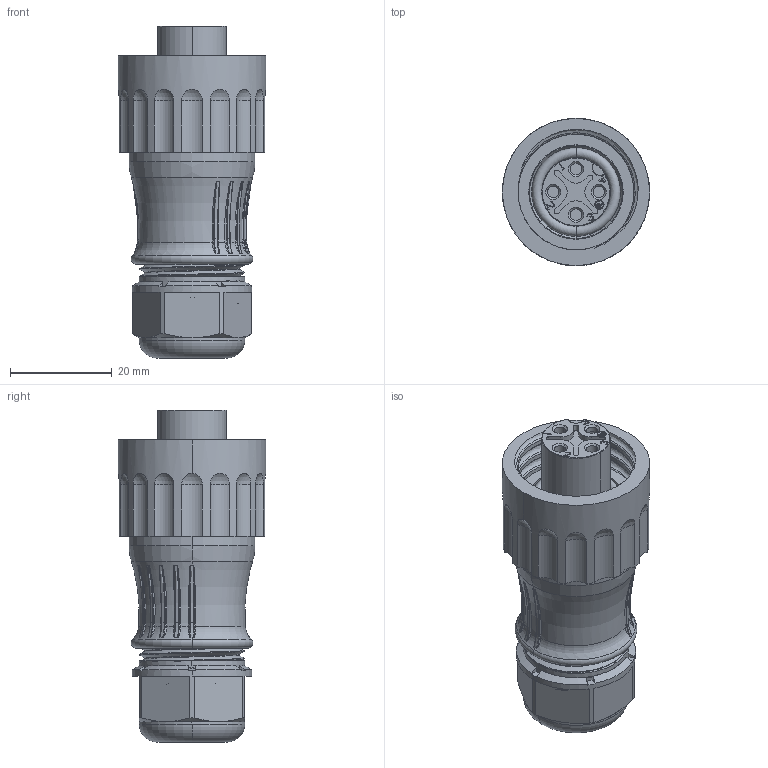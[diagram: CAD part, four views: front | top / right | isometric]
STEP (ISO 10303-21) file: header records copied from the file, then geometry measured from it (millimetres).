
FILE_DESCRIPTION((''),'2;1');
FILE_NAME('WA22K4TK2','2019-01-18T',('Administrator'),(''),'PRO/ENGINEER BY PARAMETRIC TECHNOLOGY CORPORATION, 2015240','PRO/ENGINEER BY PARAMETRIC TECHNOLOGY CORPORATION, 2015240','');
FILE_SCHEMA(('CONFIG_CONTROL_DESIGN'));
Length unit declared in the file: millimetre
Products named in the file (1): WA22K4TK2
Bounding box: 29 x 29 x 65.4 mm (x, y, z)
Volume: 22931.1 mm3; surface area: 13498.7 mm2
Topology: 1 solids, 1 shells, 578 faces, 1674 edges, 1105 vertices
Faces by surface type: plane 250, cylinder 144, cone 85, torus 56, bspline 25, sphere 18
Entity records: 26912 total; most frequent: CARTESIAN_POINT 11915, ORIENTED_EDGE 3348, DIRECTION 2925, EDGE_CURVE 1674, VERTEX_POINT 1105, AXIS2_PLACEMENT_3D 1074, VECTOR 777, LINE 777
